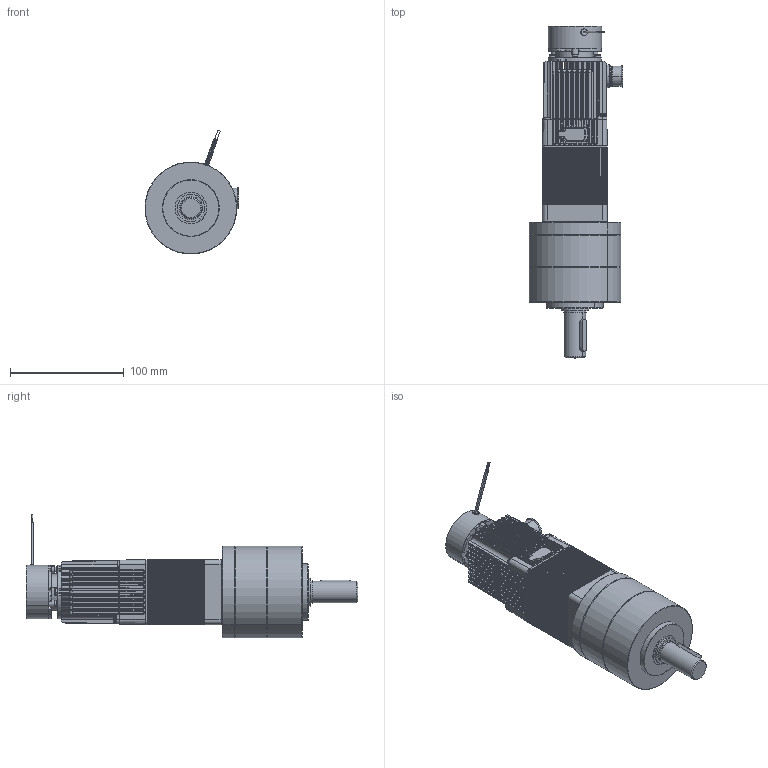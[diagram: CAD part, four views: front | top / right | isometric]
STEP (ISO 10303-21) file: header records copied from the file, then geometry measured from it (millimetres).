
FILE_DESCRIPTION((''),'2;1');
FILE_NAME('ENV_SIMP_STEP_TEMP','2012-10-24T',('VALJBL1'),('CROUZET-AUTOMATISMES'),'PRO/ENGINEER BY PARAMETRIC TECHNOLOGY CORPORATION, 2012090','PRO/ENGINEER BY PARAMETRIC TECHNOLOGY CORPORATION, 2012090','');
FILE_SCHEMA(('CONFIG_CONTROL_DESIGN'));
Products named in the file (1): ENV_SIMP_STEP_TEMP
Bounding box: 82.7 x 292.05 x 108.97 mm (x, y, z)
Surface area: 126574.8 mm2 (no closed solid volume)
Topology: 0 solids, 218 shells, 3008 faces, 9374 edges, 6411 vertices
Faces by surface type: cylinder 1467, plane 1302, sphere 98, torus 57, bspline 52, cone 32
Entity records: 108671 total; most frequent: CARTESIAN_POINT 29966, DIRECTION 16209, ORIENTED_EDGE 14317, EDGE_CURVE 9374, VERTEX_POINT 6411, VECTOR 5511, LINE 5511, AXIS2_PLACEMENT_3D 5349
